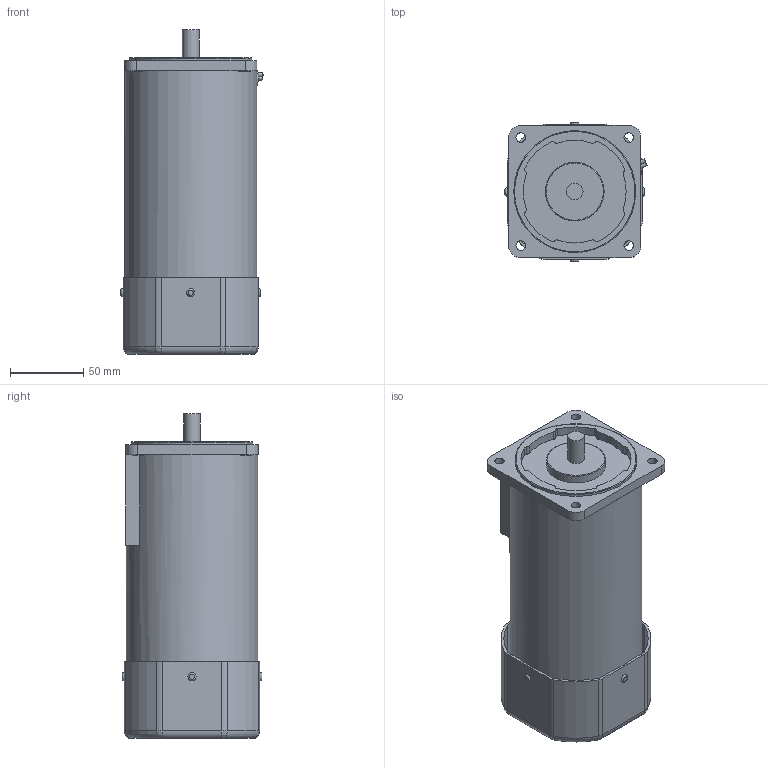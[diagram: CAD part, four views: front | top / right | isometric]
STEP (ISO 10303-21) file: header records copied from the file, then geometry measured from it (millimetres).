
FILE_DESCRIPTION((''),'2;1');
FILE_NAME('E:\2공장-도면\3D\표준형 3D(민규)\step file\K9RP180Fㅁ-B.stp','2014-11-11T10:49:11',('AHN'),(''),'Autodesk Inventor 2012','Autodesk Inventor 2012','');
FILE_SCHEMA(('CONFIG_CONTROL_DESIGN'));
Length unit declared in the file: millimetre
Products named in the file (1): K9RP180Fㅁ-Bㄱ
Bounding box: 96.71 x 95 x 221 mm (x, y, z)
Volume: 1221096.8 mm3; surface area: 112014.3 mm2
Topology: 1 solids, 1 shells, 233 faces, 586 edges, 360 vertices
Faces by surface type: cylinder 119, plane 68, torus 38, bspline 8
Full cylindrical faces by diameter (mm): 6.5 x4, 8 x4, 11.3 x1, 40 x1, 83 x1, 90 x1
Entity records: 7578 total; most frequent: CARTESIAN_POINT 1968, DIRECTION 1207, ORIENTED_EDGE 1120, EDGE_CURVE 560, AXIS2_PLACEMENT_3D 478, VERTEX_POINT 352, EDGE_LOOP 297, CIRCLE 252
